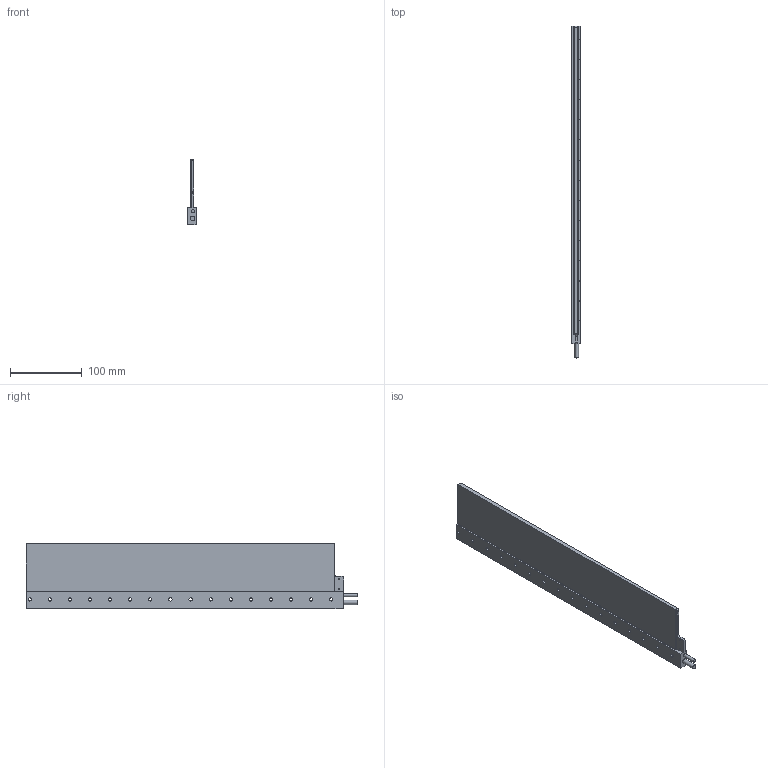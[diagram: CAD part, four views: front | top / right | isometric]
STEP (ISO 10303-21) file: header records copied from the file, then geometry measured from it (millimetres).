
FILE_DESCRIPTION( ( '-' ), '1' );
FILE_NAME( 'C:/Users/peikelboom/Desktop/STEP Files/Ironless/UL/Coilunit UL 15_160607.stp', '20-04-2016', ( 'P.Eikelboom' ), ( 'Technotion' ), 'PSStep 16.0.42', '-', ' ' );
FILE_SCHEMA( ( 'AUTOMOTIVE_DESIGN { 1 0 10303 214 1 1 1 1 }' ) );
Length unit declared in the file: millimetre
Products named in the file (1): GietharsUL15
Bounding box: 12 x 462 x 91.3 mm (x, y, z)
Surface area: 97921.3 mm2 (no closed solid volume)
Topology: 0 solids, 164 shells, 164 faces, 896 edges, 866 vertices
Faces by surface type: cylinder 88, plane 72, cone 4
Full cylindrical faces by diameter (mm): 1.6 x2, 3 x2, 3.2 x2, 4.3 x1, 4.5 x16, 5.7 x2, 6.4 x1
Entity records: 10230 total; most frequent: CARTESIAN_POINT 2385, DIRECTION 1408, ORIENTED_EDGE 840, EDGE_CURVE 840, VERTEX_POINT 840, LINE 482, VECTOR 482, AXIS2_PLACEMENT_3D 463
